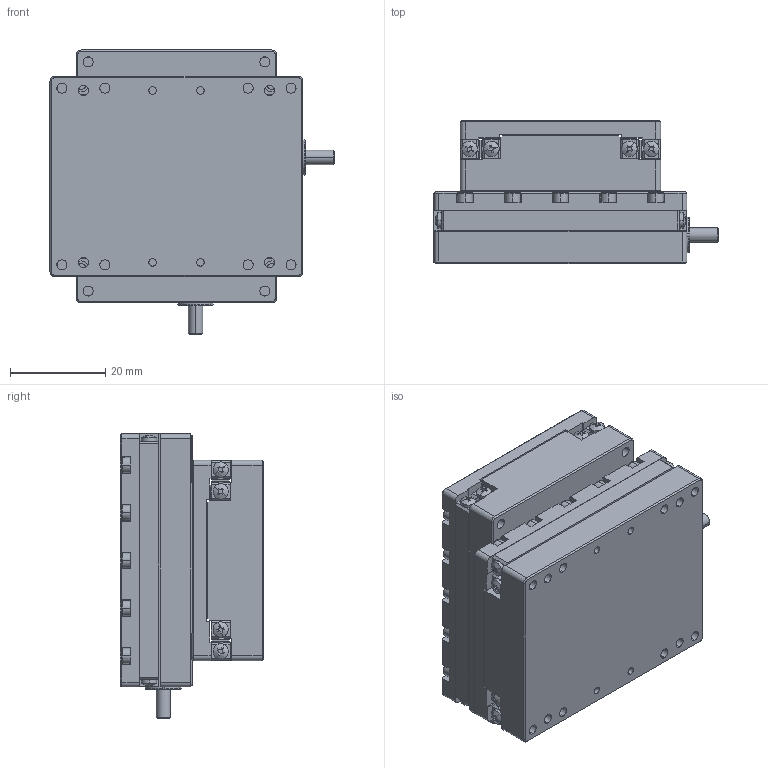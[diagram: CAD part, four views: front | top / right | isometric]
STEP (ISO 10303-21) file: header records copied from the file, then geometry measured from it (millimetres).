
FILE_DESCRIPTION (( 'STEP AP214' ), '1' );
FILE_NAME ('N56.XY30E-B1闭环二维直线压电马达3D图（25.08.01）.STEP', '2026-05-26T05:52:10', ( '微软用户' ), ( '微软中国' ), 'SwSTEP 2.0', 'SolidWorks 2016', '' );
FILE_SCHEMA (( 'AUTOMOTIVE_DESIGN' ));
Length unit declared in the file: millimetre
Products named in the file (1): N56.XY30E-B1闭环二维直线压电马达3D图（25.08.01）
Bounding box: 59.5 x 30 x 59.5 mm (x, y, z)
Volume: 46161 mm3; surface area: 41411.3 mm2
Topology: 118 solids, 118 shells, 2802 faces, 7014 edges, 4566 vertices
Faces by surface type: plane 1350, cylinder 1200, cone 160, bspline 92
Entity records: 117783 total; most frequent: CARTESIAN_POINT 17379, DIRECTION 14564, ORIENTED_EDGE 13828, EDGE_CURVE 6914, AXIS2_PLACEMENT_3D 5431, VERTEX_POINT 4566, LINE 3702, VECTOR 3702
